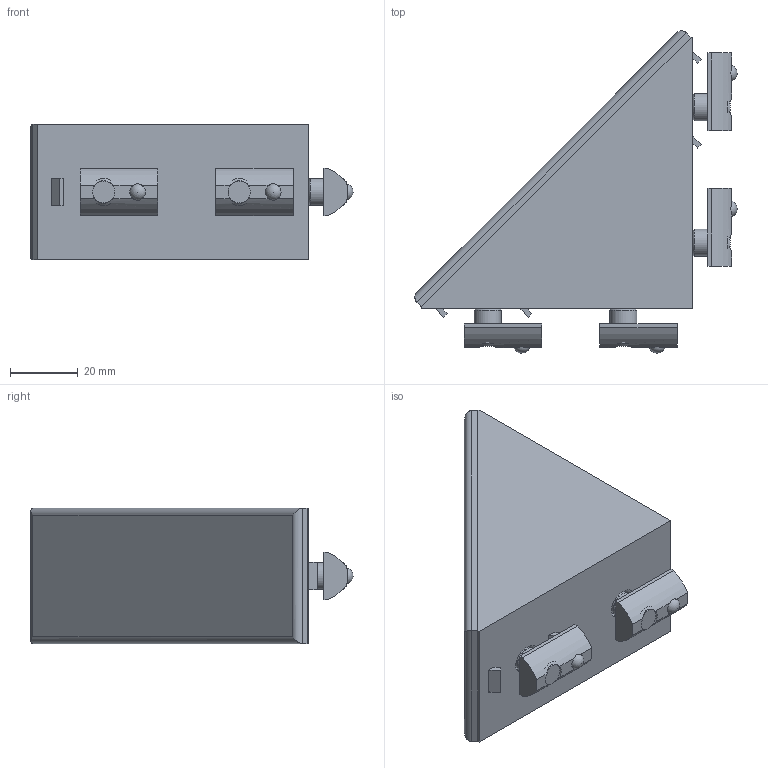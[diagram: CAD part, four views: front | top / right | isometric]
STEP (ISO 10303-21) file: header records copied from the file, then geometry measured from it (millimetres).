
FILE_DESCRIPTION(/* description */ ('STEP AP214'),/* implementation_level */ '2;1');
FILE_NAME(/* name */ 'Angle Bracket_ Zinc Die Casting GN 30i-40808-C-ZWSZS',/* time_stamp */ '2024-08-07T08:28:21+02:00',/* author */ ('License CC BY-ND 4.0'),/* organization */ ('CADENAS'),/* preprocessor_version */ 'ST-DEVELOPER v19.3',/* originating_system */ 'PARTsolutions',/* authorisation */ ' ');
FILE_SCHEMA (('AUTOMOTIVE_DESIGN {1 0 10303 214 3 1 1}'));
Length unit declared in the file: millimetre
Products named in the file (4): Angle Bracket, Zinc Die Casting GN 30i-40808-C-ZWSZS; Angle Bracket, Zinc Die Casting GN 30i-40808-C-ZWSZS-1; Angle Bracket, Zinc Die Casting GN 30i-40808-C-ZWSZS-2; Angle Bracket, Zinc Die Casting GN 30i-40808-C-ZWSZS-3
Assembly tree (9 placements, depth 2):
  Angle Bracket, Zinc Die Casting GN 30i-40808-C-ZWSZS
    Angle Bracket, Zinc Die Casting GN 30i-40808-C-ZWSZS-1
    Angle Bracket, Zinc Die Casting GN 30i-40808-C-ZWSZS-2  x4
    Angle Bracket, Zinc Die Casting GN 30i-40808-C-ZWSZS-3  x4
Bounding box: 95.1 x 95.1 x 40 mm (x, y, z)
Volume: 87549.9 mm3; surface area: 38018.1 mm2
Topology: 9 solids, 9 shells, 170 faces, 414 edges, 268 vertices
Faces by surface type: plane 118, cylinder 36, sphere 8, cone 8
Full cylindrical faces by diameter (mm): 6.647 x4, 7.2 x4, 8 x4, 14 x4
Entity records: 3005 total; most frequent: CARTESIAN_POINT 448, DIRECTION 424, ORIENTED_EDGE 398, EDGE_CURVE 199, LINE 158, VECTOR 158, VERTEX_POINT 133, AXIS2_PLACEMENT_3D 133
